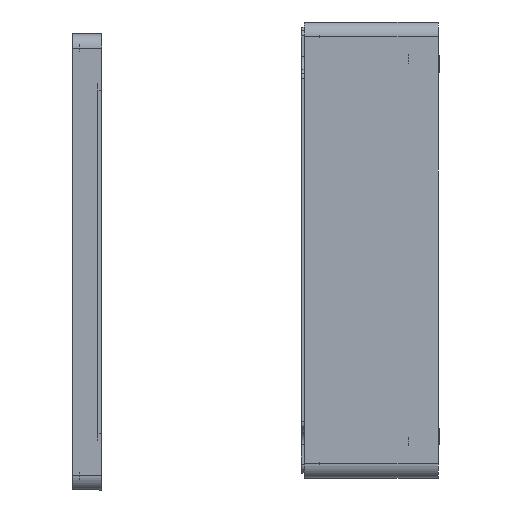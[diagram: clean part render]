
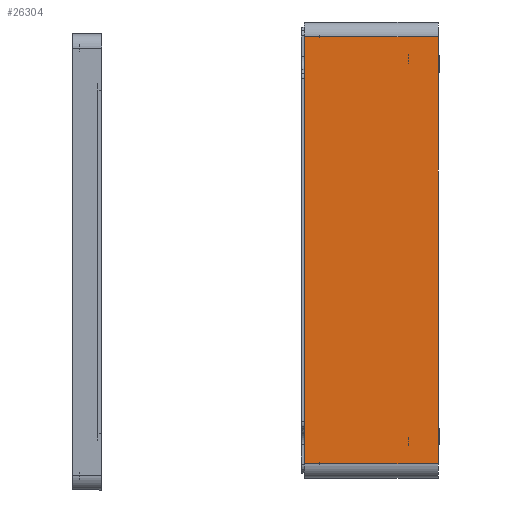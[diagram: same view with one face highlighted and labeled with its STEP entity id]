
A CAD part, left-side view. The second image highlights one B-rep face of the part: STEP entity #26304.
In plain terms, the highlighted planar face has unit normal (-1, 0, 0).
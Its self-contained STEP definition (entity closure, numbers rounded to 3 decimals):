
#911 = LINE ( 'NONE', #12202, #1596 ) ;
#1596 = VECTOR ( 'NONE', #25876, 1000. ) ;
#2046 = DIRECTION ( 'NONE',  ( 0., 0., -1. ) ) ;
#2940 = VERTEX_POINT ( 'NONE', #16325 ) ;
#3421 = LINE ( 'NONE', #6097, #27280 ) ;
#3753 = EDGE_CURVE ( 'NONE', #13306, #9648, #6458, .T. ) ;
#4001 = VECTOR ( 'NONE', #13046, 1000. ) ;
#4236 = DIRECTION ( 'NONE',  ( 0., 0., 1. ) ) ;
#4648 = ORIENTED_EDGE ( 'NONE', *, *, #3753, .F. ) ;
#5446 = CARTESIAN_POINT ( 'NONE',  ( -300., 91., -145. ) ) ;
#6097 = CARTESIAN_POINT ( 'NONE',  ( -300., 91., -145. ) ) ;
#6229 = CARTESIAN_POINT ( 'NONE',  ( -300., 0., -155. ) ) ;
#6458 = LINE ( 'NONE', #24570, #18972 ) ;
#7099 = ORIENTED_EDGE ( 'NONE', *, *, #11823, .T. ) ;
#9177 = FACE_OUTER_BOUND ( 'NONE', #18216, .T. ) ;
#9214 = ORIENTED_EDGE ( 'NONE', *, *, #23667, .T. ) ;
#9648 = VERTEX_POINT ( 'NONE', #27984 ) ;
#10076 = ORIENTED_EDGE ( 'NONE', *, *, #22512, .T. ) ;
#10270 = DIRECTION ( 'NONE',  ( 0., -1., 0. ) ) ;
#11823 = EDGE_CURVE ( 'NONE', #2940, #14353, #26578, .T. ) ;
#12202 = CARTESIAN_POINT ( 'NONE',  ( -300., 91., 145. ) ) ;
#13046 = DIRECTION ( 'NONE',  ( 0., 0., 1. ) ) ;
#13306 = VERTEX_POINT ( 'NONE', #5446 ) ;
#14353 = VERTEX_POINT ( 'NONE', #19287 ) ;
#16325 = CARTESIAN_POINT ( 'NONE',  ( -300., 0., -145. ) ) ;
#16925 = AXIS2_PLACEMENT_3D ( 'NONE', #18226, #27305, #2046 ) ;
#18216 = EDGE_LOOP ( 'NONE', ( #7099, #10076, #4648, #9214 ) ) ;
#18226 = CARTESIAN_POINT ( 'NONE',  ( -300., 91., -155. ) ) ;
#18972 = VECTOR ( 'NONE', #4236, 1000. ) ;
#19287 = CARTESIAN_POINT ( 'NONE',  ( -300., 0., 145. ) ) ;
#20753 = PLANE ( 'NONE',  #16925 ) ;
#22512 = EDGE_CURVE ( 'NONE', #14353, #9648, #911, .T. ) ;
#23667 = EDGE_CURVE ( 'NONE', #13306, #2940, #3421, .T. ) ;
#24570 = CARTESIAN_POINT ( 'NONE',  ( -300., 91., -155. ) ) ;
#25876 = DIRECTION ( 'NONE',  ( 0., 1., 0. ) ) ;
#26304 = ADVANCED_FACE ( 'NONE', ( #9177 ), #20753, .F. ) ;
#26578 = LINE ( 'NONE', #6229, #4001 ) ;
#27280 = VECTOR ( 'NONE', #10270, 1000. ) ;
#27305 = DIRECTION ( 'NONE',  ( 1., 0., 0. ) ) ;
#27984 = CARTESIAN_POINT ( 'NONE',  ( -300., 91., 145. ) ) ;
